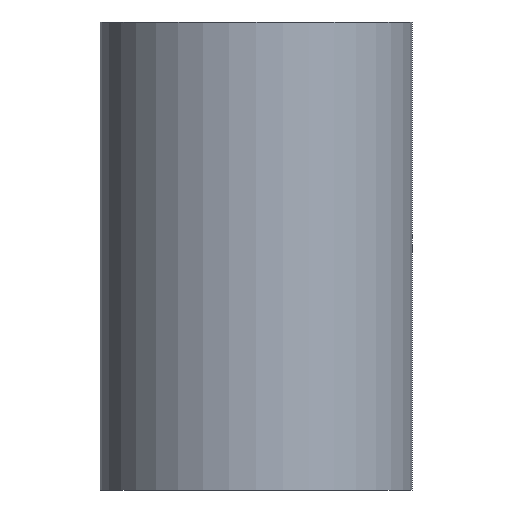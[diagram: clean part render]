
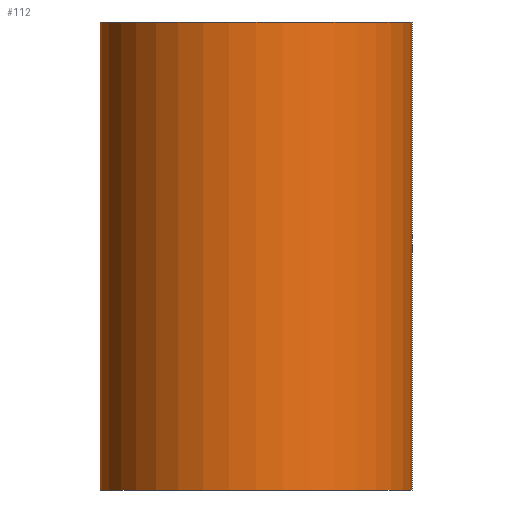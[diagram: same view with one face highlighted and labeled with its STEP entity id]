
A CAD part, front view. The second image highlights one B-rep face of the part: STEP entity #112.
In plain terms, the highlighted cylindrical face has radius 10 mm (diameter 20 mm), a partial arc.
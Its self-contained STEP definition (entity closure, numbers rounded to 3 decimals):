
#112=ADVANCED_FACE('',(#125),#119,.T.);
#119=CYLINDRICAL_SURFACE('',#254,10.);
#125=FACE_OUTER_BOUND('',#135,.T.);
#135=EDGE_LOOP('',(#177,#178,#179,#180));
#149=CIRCLE('',#250,10.);
#151=CIRCLE('',#253,10.);
#177=ORIENTED_EDGE('',*,*,#221,.T.);
#178=ORIENTED_EDGE('',*,*,#222,.F.);
#179=ORIENTED_EDGE('',*,*,#223,.F.);
#180=ORIENTED_EDGE('',*,*,#219,.T.);
#203=VERTEX_POINT('',#344);
#204=VERTEX_POINT('',#345);
#205=VERTEX_POINT('',#349);
#206=VERTEX_POINT('',#351);
#219=EDGE_CURVE('',#203,#204,#149,.T.);
#221=EDGE_CURVE('',#204,#205,#231,.T.);
#222=EDGE_CURVE('',#206,#205,#151,.T.);
#223=EDGE_CURVE('',#203,#206,#232,.T.);
#231=LINE('',#348,#235);
#232=LINE('',#352,#236);
#235=VECTOR('',#298,1.);
#236=VECTOR('',#301,1.);
#250=AXIS2_PLACEMENT_3D('',#343,#292,#293);
#253=AXIS2_PLACEMENT_3D('',#350,#299,#300);
#254=AXIS2_PLACEMENT_3D('',#353,#302,#303);
#292=DIRECTION('',(0.,0.,1.));
#293=DIRECTION('',(0.,1.,0.));
#298=DIRECTION('',(0.,0.,1.));
#299=DIRECTION('',(0.,0.,1.));
#300=DIRECTION('',(0.,1.,0.));
#301=DIRECTION('',(0.,0.,1.));
#302=DIRECTION('',(0.,0.,1.));
#303=DIRECTION('',(0.,-1.,0.));
#343=CARTESIAN_POINT('',(0.,0.,-30.));
#344=CARTESIAN_POINT('',(-10.,0.,-30.));
#345=CARTESIAN_POINT('',(10.,0.,-30.));
#348=CARTESIAN_POINT('',(10.,0.,0.));
#349=CARTESIAN_POINT('',(10.,0.,0.));
#350=CARTESIAN_POINT('',(0.,0.,0.));
#351=CARTESIAN_POINT('',(-10.,0.,0.));
#352=CARTESIAN_POINT('',(-10.,0.,0.));
#353=CARTESIAN_POINT('',(0.,0.,-30.));
